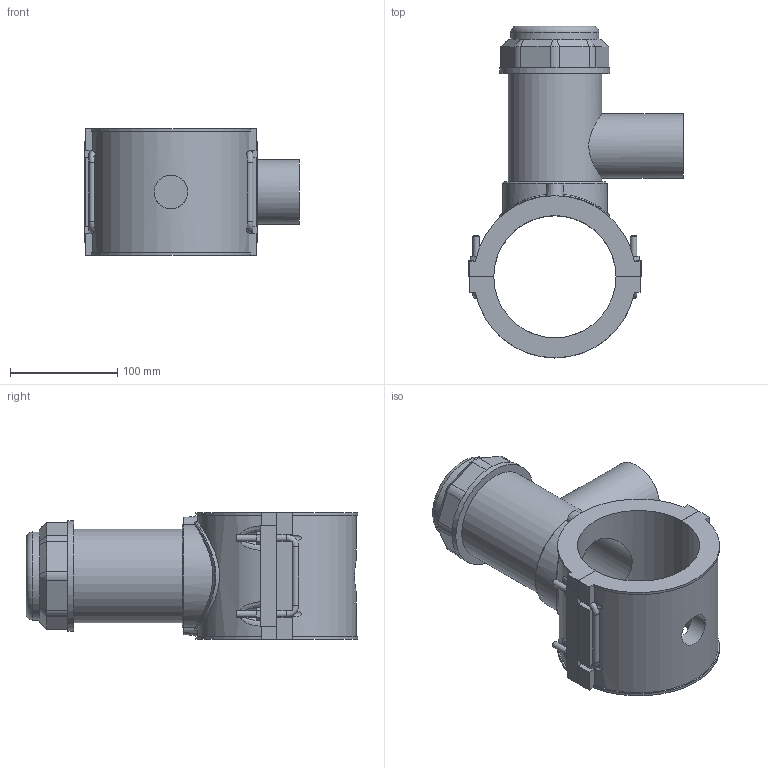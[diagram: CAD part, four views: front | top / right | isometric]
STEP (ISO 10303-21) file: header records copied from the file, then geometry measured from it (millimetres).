
FILE_DESCRIPTION(/* description */ ('PLASSON TAPPING SADDLE 4''''IPS x 2''''IPS'),/* implementation_level */ '2;1');
FILE_NAME(/* name */ 'C:\Dropbox\KIMPROJECTS-Inventor 2019\99-16-3568-Processing Inch\ASTM ElectroFusion 2021\5963B\5963BB03040020.ipt.stp',/* time_stamp */ '2021-08-30T09:55:27+03:00',/* author */ ('KIM'),/* organization */ (''),/* preprocessor_version */ 'ST-DEVELOPER v17.2',/* originating_system */ 'Autodesk Inventor 2019',/* authorisation */ '');
FILE_SCHEMA (('AUTOMOTIVE_DESIGN { 1 0 10303 214 3 1 1 }'));
Length unit declared in the file: millimetre
Products named in the file (1): 5963BB03040020
Bounding box: 200.39 x 309.74 x 118.11 mm (x, y, z)
Volume: 1432086.8 mm3; surface area: 240326.4 mm2
Topology: 1 solids, 1 shells, 216 faces, 587 edges, 384 vertices
Faces by surface type: plane 126, cylinder 60, cone 15, torus 9, bspline 6
Full cylindrical faces by diameter (mm): 6 x7, 31.36 x1, 48.08 x1, 60.1 x1, 71.883 x1, 82.152 x1, 87.287 x1, 97.555 x1, 102.69 x1
Entity records: 8650 total; most frequent: CARTESIAN_POINT 3112, ORIENTED_EDGE 1196, DIRECTION 1093, EDGE_CURVE 598, VERTEX_POINT 384, AXIS2_PLACEMENT_3D 377, LINE 339, VECTOR 339
